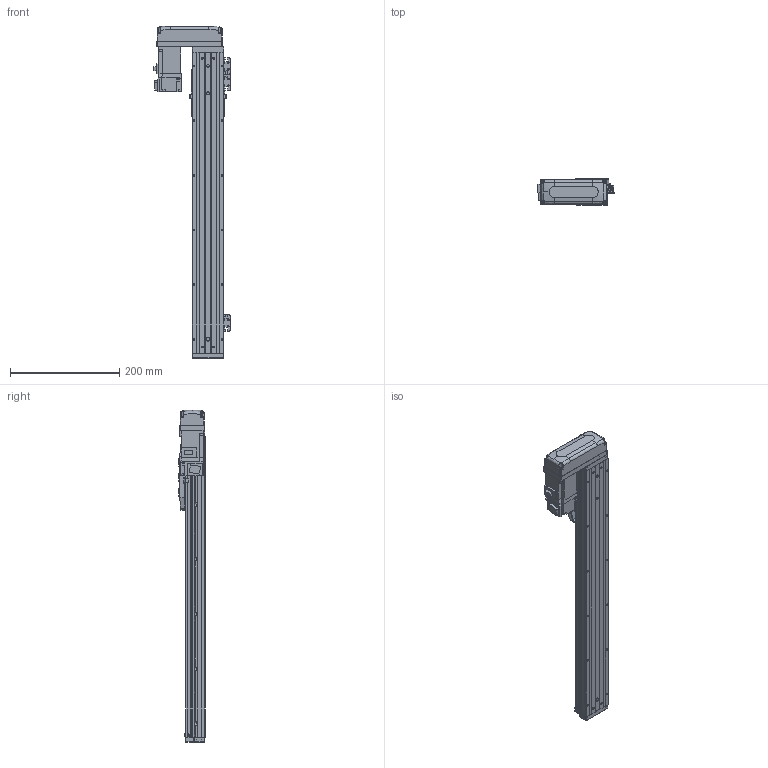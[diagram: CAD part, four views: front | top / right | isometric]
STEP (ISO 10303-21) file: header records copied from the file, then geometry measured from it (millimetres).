
FILE_DESCRIPTION (( 'STEP AP203' ), '1' );
FILE_NAME ('CTHA50-400-BR-M10-C4L.step', '2022-03-19T06:07:00', ( '微软用户' ), ( '微软中国' ), 'SwSTEP 2.0', 'SolidWorks 2020', '' );
FILE_SCHEMA (( 'CONFIG_CONTROL_DESIGN' ));
Length unit declared in the file: millimetre
Products named in the file (20): EE_SX911P_R; HG-KR13（三菱）; GBT 70.1-M3×15; GBT77-2000 M3×3; CTHA50-002; CTHA50-400-BR-M10-C4L; GBT 70.1-M3℅6; CTHA50-030; KTHA50-001_550; CTHA60-017; CTHA50-031; KTHA50-004; GBT 70.1-M4×12; GBT 70.3-M3℅6; KTHA50-005; CTHA60-016; CTHA50-015-2_CTHA60-015-2; GB¨uT 70.2-M3¡Á6_M3¡Á6; CTHA60-021; CTHA60-033
Assembly tree (60 placements, depth 2):
  CTHA50-400-BR-M10-C4L
    KTHA50-001_550
    KTHA50-004
    KTHA50-005
    GB¨uT 70.2-M3¡Á6_M3¡Á6  x10
    EE_SX911P_R  x3
    GBT77-2000 M3×3  x6
    GBT 70.1-M3℅6  x6
    CTHA60-017  x3
    GBT 70.1-M4×12  x10
    CTHA60-016  x2
    CTHA60-021  x2
    HG-KR13（三菱）
    CTHA50-002
    CTHA50-030  x2
    CTHA50-031
    GBT 70.3-M3℅6  x4
    CTHA50-015-2_CTHA60-015-2
    CTHA60-033
    GBT 70.1-M3×15  x4
Bounding box: 139.12 x 48 x 607 mm (x, y, z)
Volume: 1237265.6 mm3; surface area: 318617.6 mm2
Topology: 62 solids, 62 shells, 2513 faces, 5967 edges, 3654 vertices
Faces by surface type: plane 1422, cylinder 582, cone 351, torus 108, bspline 26, sphere 24
Entity records: 42685 total; most frequent: CARTESIAN_POINT 7883, DIRECTION 6645, ORIENTED_EDGE 6442, EDGE_CURVE 3221, VECTOR 2253, LINE 2253, AXIS2_PLACEMENT_3D 2196, VERTEX_POINT 2028
